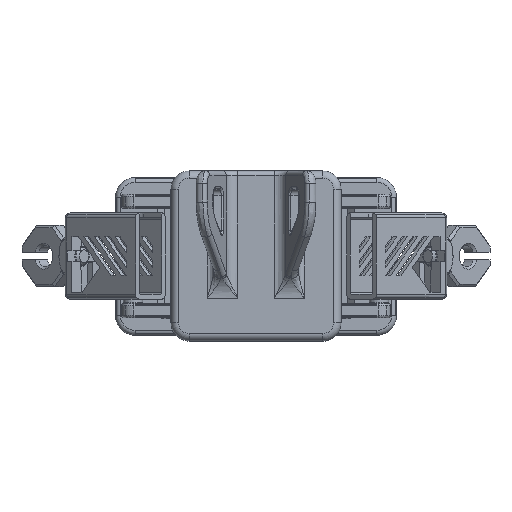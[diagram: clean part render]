
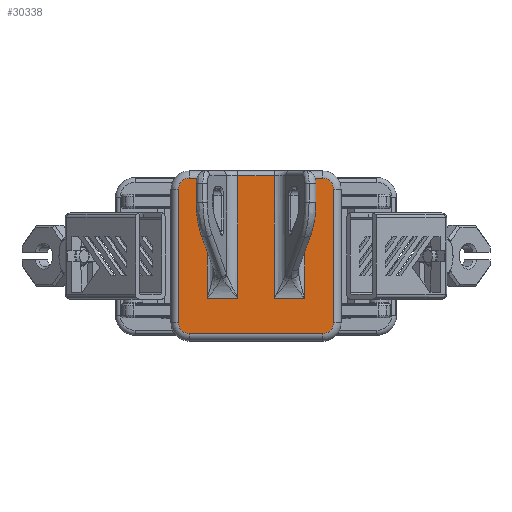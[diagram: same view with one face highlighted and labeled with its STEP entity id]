
A CAD part, top view. The second image highlights one B-rep face of the part: STEP entity #30338.
In plain terms, the highlighted planar face has unit normal (0, 0, 1).
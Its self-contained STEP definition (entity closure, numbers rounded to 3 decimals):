
#30199=CARTESIAN_POINT('',(-0.,0.,8.69));
#30200=DIRECTION('',(0.,0.,1.));
#30201=DIRECTION('',(1.,0.,0.));
#30202=AXIS2_PLACEMENT_3D('',#30199,#30200,#30201);
#30203=PLANE('',#30202);
#30204=CARTESIAN_POINT('',(7.309,-17.166,8.69));
#30205=VERTEX_POINT('',#30204);
#30206=CARTESIAN_POINT('',(7.309,32.5,8.69));
#30207=VERTEX_POINT('',#30206);
#30208=CARTESIAN_POINT('',(7.309,-17.166,8.69));
#30209=DIRECTION('',(-0.,1.,0.));
#30210=VECTOR('',#30209,49.666);
#30211=LINE('',#30208,#30210);
#30212=EDGE_CURVE('',#30205,#30207,#30211,.T.);
#30213=ORIENTED_EDGE('',*,*,#30212,.T.);
#30214=CARTESIAN_POINT('',(-7.309,32.5,8.69));
#30215=VERTEX_POINT('',#30214);
#30216=CARTESIAN_POINT('',(7.309,32.5,8.69));
#30217=DIRECTION('',(-1.,-0.,-0.));
#30218=VECTOR('',#30217,14.618);
#30219=LINE('',#30216,#30218);
#30220=EDGE_CURVE('',#30207,#30215,#30219,.T.);
#30221=ORIENTED_EDGE('',*,*,#30220,.T.);
#30222=CARTESIAN_POINT('',(-7.309,-17.166,8.69));
#30223=VERTEX_POINT('',#30222);
#30224=CARTESIAN_POINT('',(-7.309,32.5,8.69));
#30225=DIRECTION('',(-0.,-1.,-0.));
#30226=VECTOR('',#30225,49.666);
#30227=LINE('',#30224,#30226);
#30228=EDGE_CURVE('',#30215,#30223,#30227,.T.);
#30229=ORIENTED_EDGE('',*,*,#30228,.T.);
#30230=CARTESIAN_POINT('',(-19.702,-17.166,8.69));
#30231=VERTEX_POINT('',#30230);
#30232=CARTESIAN_POINT('',(-7.309,-17.166,8.69));
#30233=DIRECTION('',(-1.,0.,-0.));
#30234=VECTOR('',#30233,12.392);
#30235=LINE('',#30232,#30234);
#30236=EDGE_CURVE('',#30223,#30231,#30235,.T.);
#30237=ORIENTED_EDGE('',*,*,#30236,.T.);
#30238=CARTESIAN_POINT('',(-19.702,31.5,8.69));
#30239=VERTEX_POINT('',#30238);
#30240=CARTESIAN_POINT('',(-19.702,-17.166,8.69));
#30241=DIRECTION('',(-0.,1.,-0.));
#30242=VECTOR('',#30241,48.666);
#30243=LINE('',#30240,#30242);
#30244=EDGE_CURVE('',#30231,#30239,#30243,.T.);
#30245=ORIENTED_EDGE('',*,*,#30244,.T.);
#30246=CARTESIAN_POINT('',(-27.,31.5,8.69));
#30247=VERTEX_POINT('',#30246);
#30248=CARTESIAN_POINT('',(-19.702,31.5,8.69));
#30249=DIRECTION('',(-1.,-0.,0.));
#30250=VECTOR('',#30249,7.298);
#30251=LINE('',#30248,#30250);
#30252=EDGE_CURVE('',#30239,#30247,#30251,.T.);
#30253=ORIENTED_EDGE('',*,*,#30252,.T.);
#30254=CARTESIAN_POINT('',(-31.5,27.,8.69));
#30255=VERTEX_POINT('',#30254);
#30256=CARTESIAN_POINT('',(-27.,27.,8.69));
#30257=DIRECTION('',(0.,0.,1.));
#30258=DIRECTION('',(1.,0.,-0.));
#30259=AXIS2_PLACEMENT_3D('',#30256,#30257,#30258);
#30260=CIRCLE('',#30259,4.5);
#30261=EDGE_CURVE('',#30247,#30255,#30260,.T.);
#30262=ORIENTED_EDGE('',*,*,#30261,.T.);
#30263=CARTESIAN_POINT('',(-31.5,-27.,8.69));
#30264=VERTEX_POINT('',#30263);
#30265=CARTESIAN_POINT('',(-31.5,27.,8.69));
#30266=DIRECTION('',(0.,-1.,0.));
#30267=VECTOR('',#30266,54.);
#30268=LINE('',#30265,#30267);
#30269=EDGE_CURVE('',#30255,#30264,#30268,.T.);
#30270=ORIENTED_EDGE('',*,*,#30269,.T.);
#30271=CARTESIAN_POINT('',(-27.,-31.5,8.69));
#30272=VERTEX_POINT('',#30271);
#30273=CARTESIAN_POINT('',(-27.,-27.,8.69));
#30274=DIRECTION('',(0.,0.,1.));
#30275=DIRECTION('',(1.,0.,-0.));
#30276=AXIS2_PLACEMENT_3D('',#30273,#30274,#30275);
#30277=CIRCLE('',#30276,4.5);
#30278=EDGE_CURVE('',#30264,#30272,#30277,.T.);
#30279=ORIENTED_EDGE('',*,*,#30278,.T.);
#30280=CARTESIAN_POINT('',(27.,-31.5,8.69));
#30281=VERTEX_POINT('',#30280);
#30282=CARTESIAN_POINT('',(-27.,-31.5,8.69));
#30283=DIRECTION('',(1.,0.,0.));
#30284=VECTOR('',#30283,54.);
#30285=LINE('',#30282,#30284);
#30286=EDGE_CURVE('',#30272,#30281,#30285,.T.);
#30287=ORIENTED_EDGE('',*,*,#30286,.T.);
#30288=CARTESIAN_POINT('',(31.5,-27.,8.69));
#30289=VERTEX_POINT('',#30288);
#30290=CARTESIAN_POINT('',(27.,-27.,8.69));
#30291=DIRECTION('',(0.,0.,1.));
#30292=DIRECTION('',(1.,0.,-0.));
#30293=AXIS2_PLACEMENT_3D('',#30290,#30291,#30292);
#30294=CIRCLE('',#30293,4.5);
#30295=EDGE_CURVE('',#30281,#30289,#30294,.T.);
#30296=ORIENTED_EDGE('',*,*,#30295,.T.);
#30297=CARTESIAN_POINT('',(31.5,27.,8.69));
#30298=VERTEX_POINT('',#30297);
#30299=CARTESIAN_POINT('',(31.5,-27.,8.69));
#30300=DIRECTION('',(0.,1.,0.));
#30301=VECTOR('',#30300,54.);
#30302=LINE('',#30299,#30301);
#30303=EDGE_CURVE('',#30289,#30298,#30302,.T.);
#30304=ORIENTED_EDGE('',*,*,#30303,.T.);
#30305=CARTESIAN_POINT('',(27.,31.5,8.69));
#30306=VERTEX_POINT('',#30305);
#30307=CARTESIAN_POINT('',(27.,27.,8.69));
#30308=DIRECTION('',(0.,0.,1.));
#30309=DIRECTION('',(1.,0.,-0.));
#30310=AXIS2_PLACEMENT_3D('',#30307,#30308,#30309);
#30311=CIRCLE('',#30310,4.5);
#30312=EDGE_CURVE('',#30298,#30306,#30311,.T.);
#30313=ORIENTED_EDGE('',*,*,#30312,.T.);
#30314=CARTESIAN_POINT('',(19.702,31.5,8.69));
#30315=VERTEX_POINT('',#30314);
#30316=CARTESIAN_POINT('',(27.,31.5,8.69));
#30317=DIRECTION('',(-1.,-0.,0.));
#30318=VECTOR('',#30317,7.298);
#30319=LINE('',#30316,#30318);
#30320=EDGE_CURVE('',#30306,#30315,#30319,.T.);
#30321=ORIENTED_EDGE('',*,*,#30320,.T.);
#30322=CARTESIAN_POINT('',(19.702,-17.166,8.69));
#30323=VERTEX_POINT('',#30322);
#30324=CARTESIAN_POINT('',(19.702,31.5,8.69));
#30325=DIRECTION('',(0.,-1.,0.));
#30326=VECTOR('',#30325,48.666);
#30327=LINE('',#30324,#30326);
#30328=EDGE_CURVE('',#30315,#30323,#30327,.T.);
#30329=ORIENTED_EDGE('',*,*,#30328,.T.);
#30330=CARTESIAN_POINT('',(19.702,-17.166,8.69));
#30331=DIRECTION('',(-1.,-0.,-0.));
#30332=VECTOR('',#30331,12.392);
#30333=LINE('',#30330,#30332);
#30334=EDGE_CURVE('',#30323,#30205,#30333,.T.);
#30335=ORIENTED_EDGE('',*,*,#30334,.T.);
#30336=EDGE_LOOP('',(#30213,#30221,#30229,#30237,#30245,#30253,#30262,#30270,#30279,#30287,#30296,#30304,#30313,#30321,#30329,#30335));
#30337=FACE_BOUND('',#30336,.T.);
#30338=ADVANCED_FACE('',(#30337),#30203,.T.);
